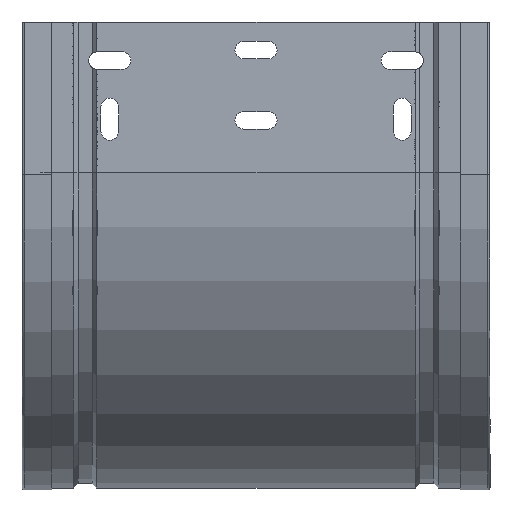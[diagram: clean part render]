
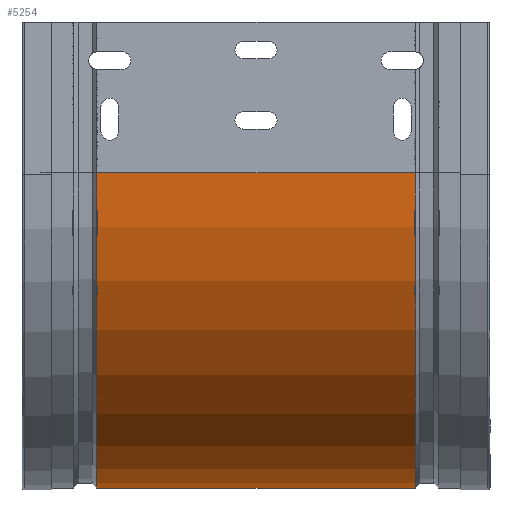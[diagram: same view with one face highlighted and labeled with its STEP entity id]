
A CAD part, front view. The second image highlights one B-rep face of the part: STEP entity #5254.
In plain terms, the highlighted cylindrical face has radius 134.8 mm (diameter 269.6 mm), a partial arc.
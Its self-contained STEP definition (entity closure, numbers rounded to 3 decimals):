
#62 = CARTESIAN_POINT ( 'NONE',  ( -167., -0.8, -64.4 ) ) ;
#66 = VERTEX_POINT ( 'NONE', #4610 ) ;
#106 = AXIS2_PLACEMENT_3D ( 'NONE', #1150, #2389, #2928 ) ;
#343 = DIRECTION ( 'NONE',  ( 1., 0., 0. ) ) ;
#418 = EDGE_LOOP ( 'NONE', ( #4235, #2676, #5523, #1767 ) ) ;
#502 = DIRECTION ( 'NONE',  ( 1., 0., 0. ) ) ;
#687 = CARTESIAN_POINT ( 'NONE',  ( -31., 134., -199.2 ) ) ;
#1017 = EDGE_CURVE ( 'NONE', #1441, #2910, #1463, .T. ) ;
#1150 = CARTESIAN_POINT ( 'NONE',  ( 0., 134., -64.4 ) ) ;
#1298 = CARTESIAN_POINT ( 'NONE',  ( -31., -0.8, -64.4 ) ) ;
#1441 = VERTEX_POINT ( 'NONE', #3253 ) ;
#1463 = LINE ( 'NONE', #3209, #2904 ) ;
#1496 = CARTESIAN_POINT ( 'NONE',  ( -31., 134., -64.4 ) ) ;
#1680 = VERTEX_POINT ( 'NONE', #62 ) ;
#1767 = ORIENTED_EDGE ( 'NONE', *, *, #2792, .F. ) ;
#1845 = FACE_OUTER_BOUND ( 'NONE', #418, .T. ) ;
#2004 = AXIS2_PLACEMENT_3D ( 'NONE', #1496, #3680, #5407 ) ;
#2058 = EDGE_CURVE ( 'NONE', #1680, #66, #3908, .T. ) ;
#2389 = DIRECTION ( 'NONE',  ( 1., 0., 0. ) ) ;
#2676 = ORIENTED_EDGE ( 'NONE', *, *, #3580, .T. ) ;
#2792 = EDGE_CURVE ( 'NONE', #66, #2910, #4845, .T. ) ;
#2904 = VECTOR ( 'NONE', #5021, 1000. ) ;
#2910 = VERTEX_POINT ( 'NONE', #687 ) ;
#2928 = DIRECTION ( 'NONE',  ( 0., 0., -1. ) ) ;
#3209 = CARTESIAN_POINT ( 'NONE',  ( -31., 134., -199.2 ) ) ;
#3253 = CARTESIAN_POINT ( 'NONE',  ( -167., 134., -199.2 ) ) ;
#3544 = DIRECTION ( 'NONE',  ( 0., 0., -1. ) ) ;
#3580 = EDGE_CURVE ( 'NONE', #1680, #1441, #4581, .T. ) ;
#3601 = CYLINDRICAL_SURFACE ( 'NONE', #106, 134.8 ) ;
#3680 = DIRECTION ( 'NONE',  ( 1., 0., 0. ) ) ;
#3908 = LINE ( 'NONE', #1298, #5396 ) ;
#4008 = CARTESIAN_POINT ( 'NONE',  ( -167., 134., -64.4 ) ) ;
#4235 = ORIENTED_EDGE ( 'NONE', *, *, #2058, .F. ) ;
#4581 = CIRCLE ( 'NONE', #5224, 134.8 ) ;
#4610 = CARTESIAN_POINT ( 'NONE',  ( -31., -0.8, -64.4 ) ) ;
#4845 = CIRCLE ( 'NONE', #2004, 134.8 ) ;
#5021 = DIRECTION ( 'NONE',  ( 1., 0., 0. ) ) ;
#5224 = AXIS2_PLACEMENT_3D ( 'NONE', #4008, #502, #3544 ) ;
#5254 = ADVANCED_FACE ( 'NONE', ( #1845 ), #3601, .T. ) ;
#5396 = VECTOR ( 'NONE', #343, 1000. ) ;
#5407 = DIRECTION ( 'NONE',  ( 0., 0., -1. ) ) ;
#5523 = ORIENTED_EDGE ( 'NONE', *, *, #1017, .T. ) ;
